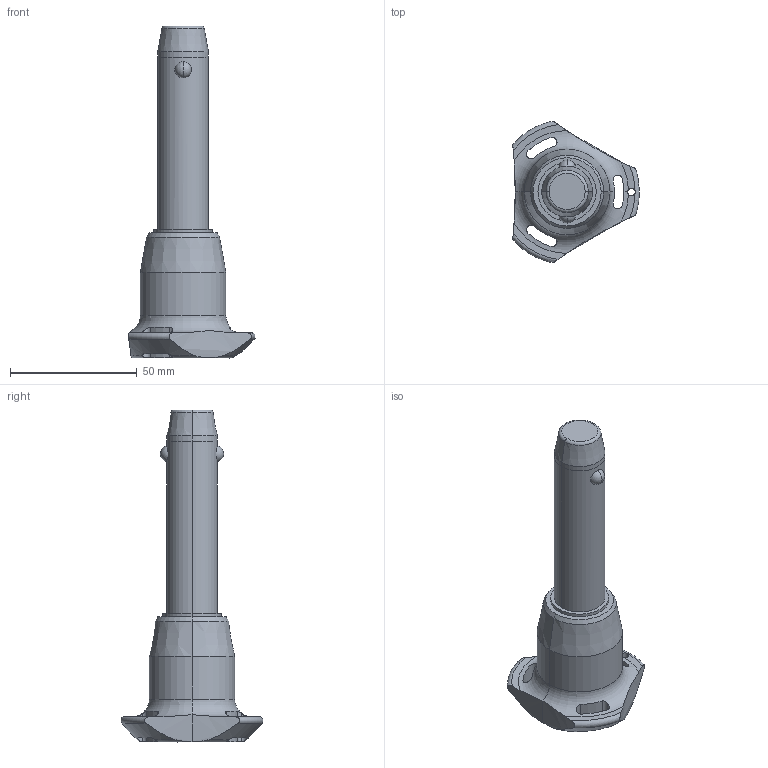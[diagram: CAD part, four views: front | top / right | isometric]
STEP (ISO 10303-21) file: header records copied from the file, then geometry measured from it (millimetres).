
FILE_DESCRIPTION (( 'STEP AP203' ), '1' );
FILE_NAME ('QR1726.M20-060-T.step', '2025-11-13T11:23:46', ( '' ), ( '' ), 'SwSTEP 2.0', 'SolidWorks 2019', '' );
FILE_SCHEMA (( 'CONFIG_CONTROL_DESIGN' ));
Length unit declared in the file: millimetre
Products named in the file (1): QR1726.M20-060-T
Bounding box: 50.04 x 56.02 x 131.2 mm (x, y, z)
Volume: 72625.2 mm3; surface area: 14737.6 mm2
Topology: 1 solids, 1 shells, 68 faces, 182 edges, 115 vertices
Faces by surface type: cylinder 32, cone 14, torus 11, sphere 6, plane 5
Entity records: 2938 total; most frequent: CARTESIAN_POINT 1192, ORIENTED_EDGE 364, DIRECTION 345, EDGE_CURVE 182, AXIS2_PLACEMENT_3D 154, VERTEX_POINT 115, CIRCLE 85, EDGE_LOOP 75
